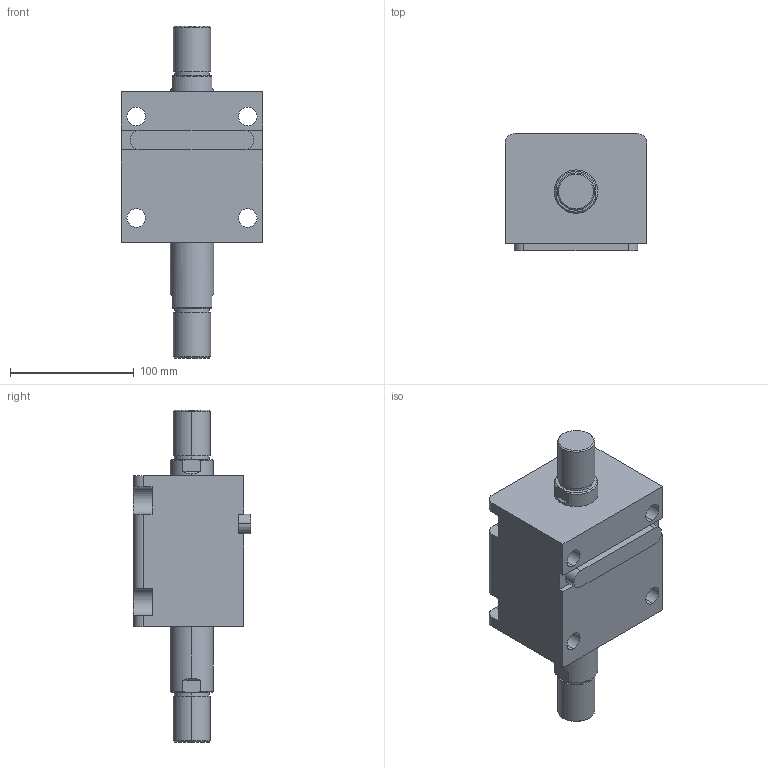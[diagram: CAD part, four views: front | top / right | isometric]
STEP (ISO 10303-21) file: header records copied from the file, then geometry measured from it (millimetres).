
FILE_DESCRIPTION (( 'STEP AP203' ), '1' );
FILE_NAME ('HTB-LW63-40W.STEP', '2019-10-09T08:25:58', ( '微软用户' ), ( '微软中国' ), 'SwSTEP 2.0', 'SolidWorks 2012', '' );
FILE_SCHEMA (( 'CONFIG_CONTROL_DESIGN' ));
Length unit declared in the file: millimetre
Products named in the file (4): HTB-LW63-40W; HTB-LA63-瑩; HTB-LW63-40W活塞杆; HTB-LW63-40掛极
Assembly tree (3 placements, depth 2):
  HTB-LW63-40W
    HTB-LW63-40掛极
    HTB-LW63-40W活塞杆
    HTB-LA63-瑩
Bounding box: 114 x 94.5 x 268 mm (x, y, z)
Volume: 1192189.8 mm3; surface area: 148141.1 mm2
Topology: 3 solids, 3 shells, 109 faces, 265 edges, 174 vertices
Faces by surface type: plane 48, cylinder 45, cone 12, torus 4
Entity records: 3679 total; most frequent: CARTESIAN_POINT 610, DIRECTION 593, ORIENTED_EDGE 530, EDGE_CURVE 265, AXIS2_PLACEMENT_3D 229, VERTEX_POINT 174, LINE 135, VECTOR 135
